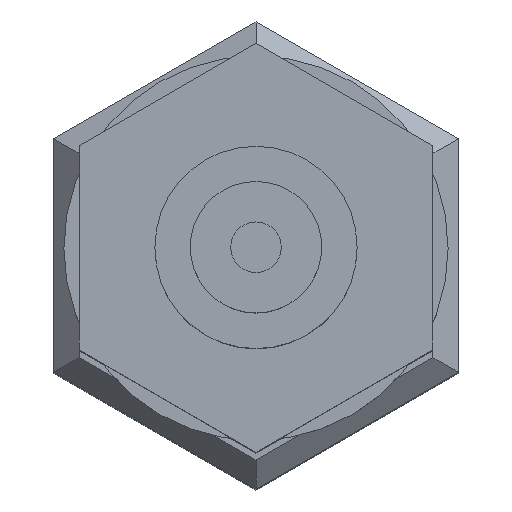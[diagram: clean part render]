
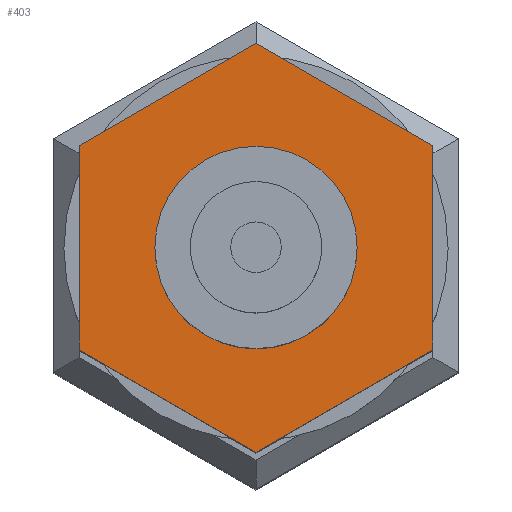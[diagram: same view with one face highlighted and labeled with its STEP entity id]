
A CAD part, top view. The second image highlights one B-rep face of the part: STEP entity #403.
In plain terms, the highlighted planar face has unit normal (0, 0, 1) as drawn and (-1, 0, 0) by its records, which use the part's own axes.
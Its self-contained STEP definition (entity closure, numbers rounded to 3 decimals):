
#291 = EDGE_CURVE ( 'NONE', #339, #407, #1246, .T. ) ;
#292 = EDGE_LOOP ( 'NONE', ( #293, #294 ) ) ;
#293 = ORIENTED_EDGE ( 'NONE', *, *, #393, .F. ) ;
#294 = ORIENTED_EDGE ( 'NONE', *, *, #295, .F. ) ;
#295 = EDGE_CURVE ( 'NONE', #394, #389, #1242, .T. ) ;
#328 = ORIENTED_EDGE ( 'NONE', *, *, #329, .T. ) ;
#329 = EDGE_CURVE ( 'NONE', #408, #330, #1255, .T. ) ;
#330 = VERTEX_POINT ( 'NONE', #1316 ) ;
#331 = ORIENTED_EDGE ( 'NONE', *, *, #332, .T. ) ;
#332 = EDGE_CURVE ( 'NONE', #330, #333, #1315, .T. ) ;
#333 = VERTEX_POINT ( 'NONE', #1311 ) ;
#334 = ORIENTED_EDGE ( 'NONE', *, *, #335, .T. ) ;
#335 = EDGE_CURVE ( 'NONE', #333, #336, #1310, .T. ) ;
#336 = VERTEX_POINT ( 'NONE', #1306 ) ;
#337 = ORIENTED_EDGE ( 'NONE', *, *, #338, .T. ) ;
#338 = EDGE_CURVE ( 'NONE', #336, #339, #1305, .T. ) ;
#339 = VERTEX_POINT ( 'NONE', #1301 ) ;
#370 = ORIENTED_EDGE ( 'NONE', *, *, #291, .T. ) ;
#389 = VERTEX_POINT ( 'NONE', #1355 ) ;
#393 = EDGE_CURVE ( 'NONE', #389, #394, #1353, .T. ) ;
#394 = VERTEX_POINT ( 'NONE', #1415 ) ;
#403 = ADVANCED_FACE ( 'NONE', ( #1399, #1398 ), #1397, .F. ) ;
#404 = EDGE_LOOP ( 'NONE', ( #405, #328, #331, #334, #337, #370 ) ) ;
#405 = ORIENTED_EDGE ( 'NONE', *, *, #406, .T. ) ;
#406 = EDGE_CURVE ( 'NONE', #407, #408, #1392, .T. ) ;
#407 = VERTEX_POINT ( 'NONE', #1388 ) ;
#408 = VERTEX_POINT ( 'NONE', #1387 ) ;
#824 = CARTESIAN_POINT ( 'NONE',  ( 7.3, 0., 0. ) ) ;
#1095 = DIRECTION ( 'NONE',  ( 0., -1., 0. ) ) ;
#1096 = DIRECTION ( 'NONE',  ( -1., 0., 0. ) ) ;
#1238 = DIRECTION ( 'NONE',  ( 0., -1., 0. ) ) ;
#1239 = DIRECTION ( 'NONE',  ( -1., 0., 0. ) ) ;
#1240 = CARTESIAN_POINT ( 'NONE',  ( 7.3, 0., 0. ) ) ;
#1241 = AXIS2_PLACEMENT_3D ( 'NONE', #1240, #1239, #1238 ) ;
#1242 = CIRCLE ( 'NONE', #1241, 2. ) ;
#1243 = DIRECTION ( 'NONE',  ( 0., 1., 0. ) ) ;
#1244 = VECTOR ( 'NONE', #1243, 1000. ) ;
#1245 = CARTESIAN_POINT ( 'NONE',  ( 7.3, -2.021, 3.5 ) ) ;
#1246 = LINE ( 'NONE', #1245, #1244 ) ;
#1254 = CARTESIAN_POINT ( 'NONE',  ( 7.3, 4.041, 0. ) ) ;
#1255 = LINE ( 'NONE', #1254, #1318 ) ;
#1301 = CARTESIAN_POINT ( 'NONE',  ( 7.3, -2.021, 3.5 ) ) ;
#1302 = DIRECTION ( 'NONE',  ( 0., 0.5, 0.866 ) ) ;
#1303 = VECTOR ( 'NONE', #1302, 1000. ) ;
#1304 = CARTESIAN_POINT ( 'NONE',  ( 7.3, -4.041, 0. ) ) ;
#1305 = LINE ( 'NONE', #1304, #1303 ) ;
#1306 = CARTESIAN_POINT ( 'NONE',  ( 7.3, -4.041, 0. ) ) ;
#1307 = DIRECTION ( 'NONE',  ( 0., -0.5, 0.866 ) ) ;
#1308 = VECTOR ( 'NONE', #1307, 1000. ) ;
#1309 = CARTESIAN_POINT ( 'NONE',  ( 7.3, -2.021, -3.5 ) ) ;
#1310 = LINE ( 'NONE', #1309, #1308 ) ;
#1311 = CARTESIAN_POINT ( 'NONE',  ( 7.3, -2.021, -3.5 ) ) ;
#1312 = DIRECTION ( 'NONE',  ( 0., -1., 0. ) ) ;
#1313 = VECTOR ( 'NONE', #1312, 1000. ) ;
#1314 = CARTESIAN_POINT ( 'NONE',  ( 7.3, 2.021, -3.5 ) ) ;
#1315 = LINE ( 'NONE', #1314, #1313 ) ;
#1316 = CARTESIAN_POINT ( 'NONE',  ( 7.3, 2.021, -3.5 ) ) ;
#1317 = DIRECTION ( 'NONE',  ( 0., -0.5, -0.866 ) ) ;
#1318 = VECTOR ( 'NONE', #1317, 1000. ) ;
#1352 = AXIS2_PLACEMENT_3D ( 'NONE', #824, #1096, #1095 ) ;
#1353 = CIRCLE ( 'NONE', #1352, 2. ) ;
#1355 = CARTESIAN_POINT ( 'NONE',  ( 7.3, 2., 0. ) ) ;
#1387 = CARTESIAN_POINT ( 'NONE',  ( 7.3, 4.041, 0. ) ) ;
#1388 = CARTESIAN_POINT ( 'NONE',  ( 7.3, 2.021, 3.5 ) ) ;
#1389 = DIRECTION ( 'NONE',  ( 0., 0.5, -0.866 ) ) ;
#1390 = VECTOR ( 'NONE', #1389, 1000. ) ;
#1391 = CARTESIAN_POINT ( 'NONE',  ( 7.3, 2.021, 3.5 ) ) ;
#1392 = LINE ( 'NONE', #1391, #1390 ) ;
#1393 = DIRECTION ( 'NONE',  ( 0., 1., 0. ) ) ;
#1394 = DIRECTION ( 'NONE',  ( 1., 0., 0. ) ) ;
#1395 = CARTESIAN_POINT ( 'NONE',  ( 7.3, 0., 7. ) ) ;
#1396 = AXIS2_PLACEMENT_3D ( 'NONE', #1395, #1394, #1393 ) ;
#1397 = PLANE ( 'NONE',  #1396 ) ;
#1398 = FACE_BOUND ( 'NONE', #292, .T. ) ;
#1399 = FACE_OUTER_BOUND ( 'NONE', #404, .T. ) ;
#1415 = CARTESIAN_POINT ( 'NONE',  ( 7.3, -2., 0. ) ) ;
